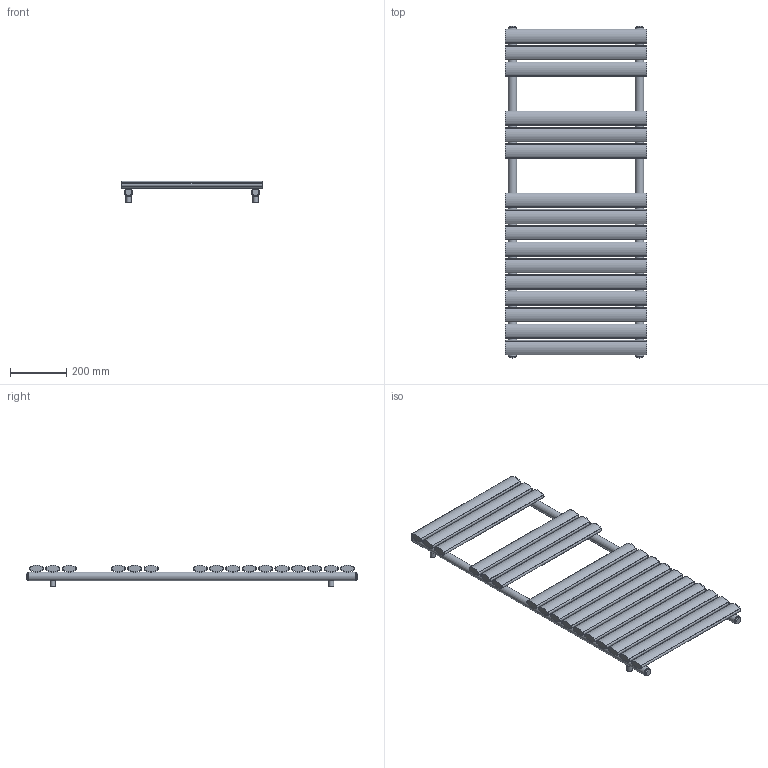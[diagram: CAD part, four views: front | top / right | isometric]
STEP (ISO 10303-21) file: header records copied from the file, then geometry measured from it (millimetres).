
FILE_DESCRIPTION(/* description */ (''),/* implementation_level */ '2;1');
FILE_NAME(/* name */ 'C:\Grzejniki\13DLUXRAD\łazienkowe\NEO\NEO 1164x500.iam.stp',/* time_stamp */ '2016-06-28T17:35:26+02:00',/* author */ ('m.szydziak'),/* organization */ (''),/* preprocessor_version */ 'ST-DEVELOPER v16.5',/* originating_system */ 'Autodesk Inventor 2017',/* authorisation */ '');
FILE_SCHEMA (('AUTOMOTIVE_DESIGN { 1 0 10303 214 3 1 1 }'));
Length unit declared in the file: millimetre
Products named in the file (6): NEO 1164x500; fi30x1,5x1164; 50x25x1,2x500; zaślepka fi30 G0,5inch; uchwyt stały; korek
Assembly tree (30 placements, depth 2):
  NEO 1164x500
    fi30x1,5x1164  x2
    50x25x1,2x500  x16
    zaślepka fi30 G0,5inch  x4
    uchwyt stały  x4
    korek  x4
Bounding box: 500 x 1176 x 76.86 mm (x, y, z)
Volume: 1481568.7 mm3; surface area: 2354460.2 mm2
Topology: 30 solids, 30 shells, 356 faces, 924 edges, 660 vertices
Faces by surface type: cylinder 216, plane 140
Full cylindrical faces by diameter (mm): 5 x32, 5.8 x32, 15 x4, 18 x4, 18.631 x4, 24 x4, 27 x6, 30 x2
Entity records: 3238 total; most frequent: CARTESIAN_POINT 1551, DIRECTION 300, ORIENTED_EDGE 254, AXIS2_PLACEMENT_3D 134, EDGE_CURVE 127, EDGE_LOOP 124, VERTEX_POINT 107, FACE_BOUND 67
